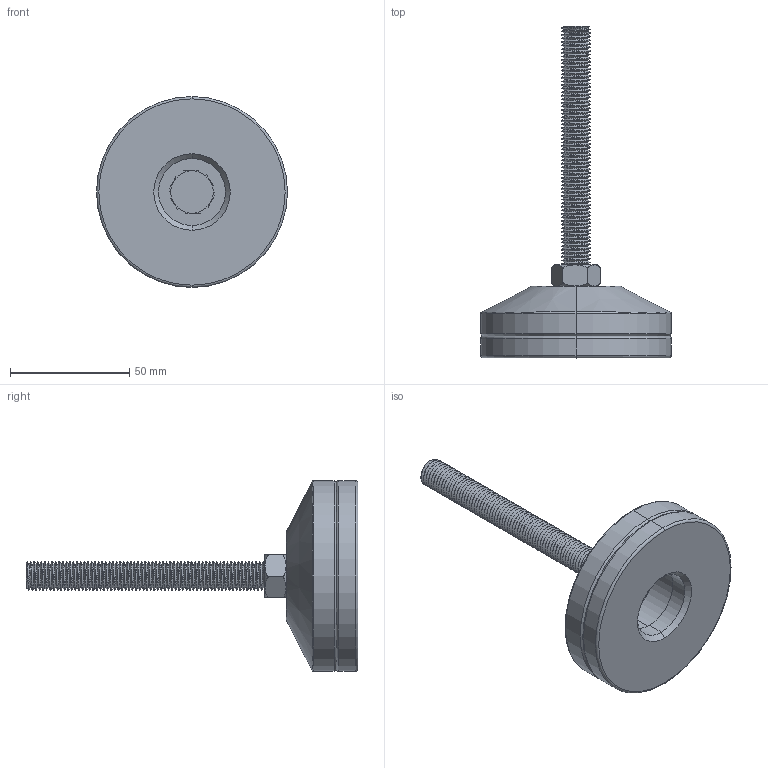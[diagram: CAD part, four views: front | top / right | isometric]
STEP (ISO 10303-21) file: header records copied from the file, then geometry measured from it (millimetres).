
FILE_DESCRIPTION (( 'STEP AP203' ), '1' );
FILE_NAME ('CE-UAF-TPU-D80-M12-100褐戚.STEP', '2016-11-05T03:53:37', ( '' ), ( '' ), 'SwSTEP 2.0', 'SolidWorks 2013', '' );
FILE_SCHEMA (( 'CONFIG_CONTROL_DESIGN' ));
Length unit declared in the file: millimetre
Products named in the file (1): CE-UAF-TPU-D80-M12-100褐戚
Bounding box: 80 x 139 x 80 mm (x, y, z)
Surface area: 29438.2 mm2 (no closed solid volume)
Topology: 0 solids, 6 shells, 195 faces, 598 edges, 397 vertices
Faces by surface type: cylinder 159, plane 12, bspline 10, torus 8, cone 6
Entity records: 13595 total; most frequent: CARTESIAN_POINT 9156, ORIENTED_EDGE 1136, DIRECTION 701, EDGE_CURVE 598, VERTEX_POINT 397, AXIS2_PLACEMENT_3D 252, EDGE_LOOP 199, LINE 197
